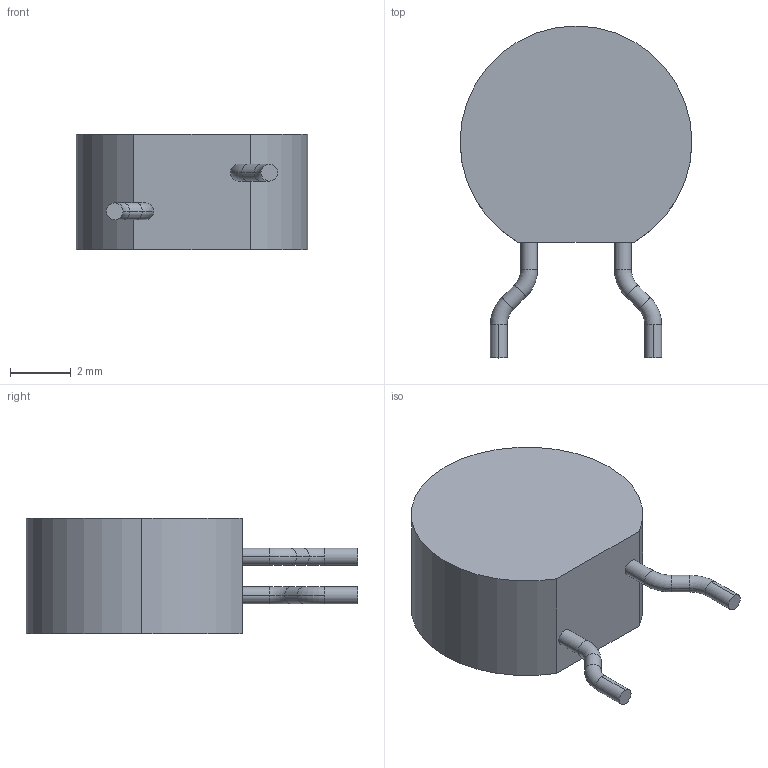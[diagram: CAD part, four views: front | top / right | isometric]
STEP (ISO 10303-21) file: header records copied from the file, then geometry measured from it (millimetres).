
FILE_DESCRIPTION (( 'STEP AP214' ), '1' );
FILE_NAME ( 'CAPRB508W55L762T381H991P.STEP', '2014-04-11T12:31:23', ( '' ), ( '' ), 'FPX Expert 2013', 'PCB Libraries', '' );
FILE_SCHEMA (( 'AUTOMOTIVE_DESIGN' ));
Length unit declared in the file: millimetre
Products named in the file (1): CAPRB508W55L762T381H991P
Bounding box: 7.62 x 10.91 x 3.81 mm (x, y, z)
Volume: 170.6 mm3; surface area: 194.3 mm2
Topology: 3 solids, 3 shells, 30 faces, 60 edges, 36 vertices
Faces by surface type: cylinder 15, torus 8, plane 7
Entity records: 928 total; most frequent: DIRECTION 164, CARTESIAN_POINT 127, ORIENTED_EDGE 120, AXIS2_PLACEMENT_3D 73, EDGE_CURVE 60, CIRCLE 42, VERTEX_POINT 36, STYLED_ITEM 34
